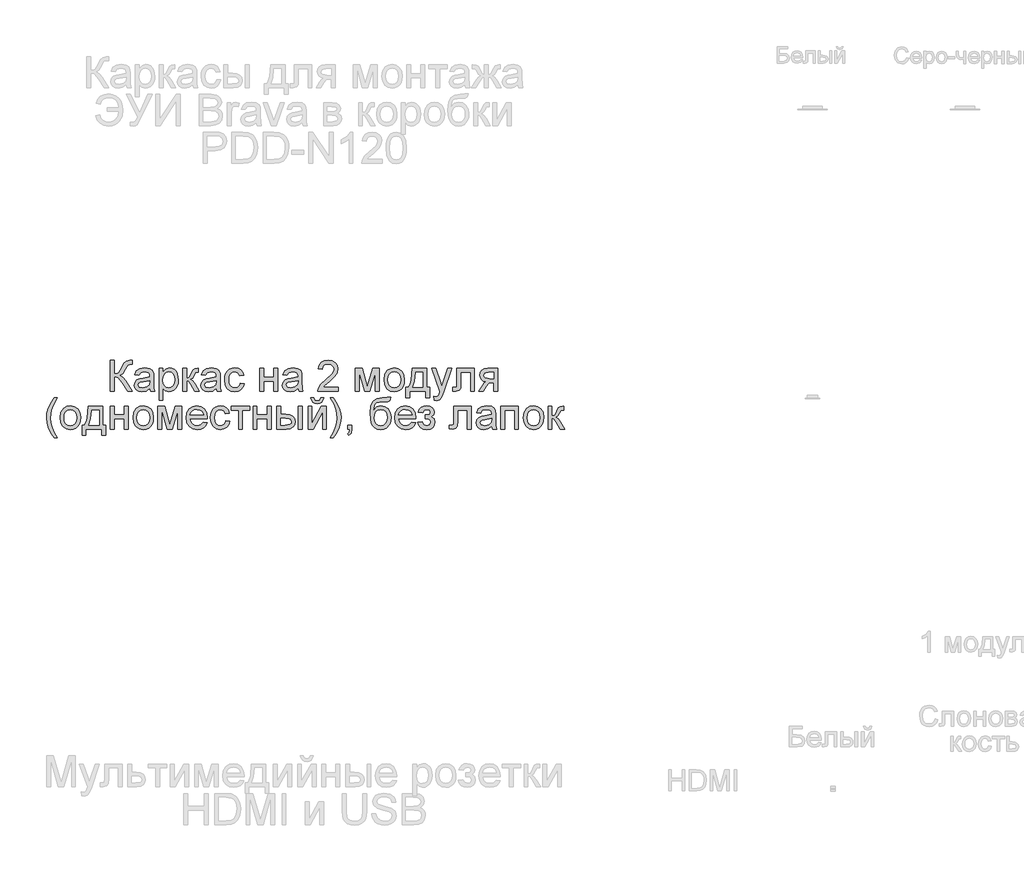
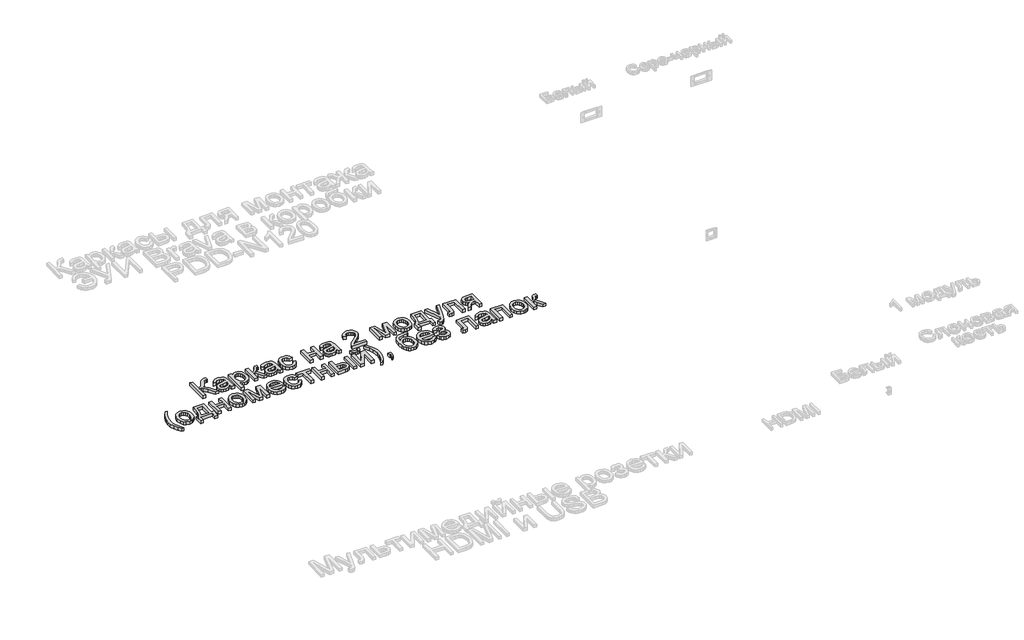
# One storey, part 14 of 47: 1 proxy.
"""IFC4 building model written with IfcOpenShell, lengths in millimetres."""

from ifc_helpers import new_model, si_unit, origin, origin_with_axes, place, context, project, spatial, polyline, outline, extrude, element, save

model = new_model("IFC4")

# Units and contexts
model_context = context("Model", 3, world=origin())
ifc_project = project(units=[si_unit("LENGTHUNIT", "METRE", prefix="MILLI")], contexts=[model_context])

# Site, building, storey
site = spatial("IfcSite", under=ifc_project)
building = spatial("IfcBuilding", under=site)
storey = spatial("IfcBuildingStorey", under=building, Name="Этаж 01", Elevation=0.0)

# Proxy
placement = place(None, origin())
element("IfcBuildingElementProxy", 1, Name="150 мм Arial", ObjectType="150 мм Arial", at=placement, inside=storey, context=model_context, shape_type="SweptSolid", body=[
    extrude(outline(polyline([(-3395.2581128, -6290.0114528), (-3376.4225547, -6290.0114528), (-3376.4225547, -6355.9359064), (-3363.670845, -6354.6897061), (-3355.3613105, -6350.9511053), (-3340.6644248, -6325.7327946), (-3330.2717584, -6304.6715503), (-3318.4995346, -6294.2420958), (-3301.6689333, -6290.0114528), (-3289.3080982, -6290.232182), (-3289.3080982, -6309.0677402), (-3293.4651648, -6308.9573756), (-3297.6222313, -6308.847011), (-3312.3375111, -6313.3719595), (-3323.5211238, -6332.7593407), (-3336.8568461, -6356.3773648), (-3349.8614746, -6364.176463), (-3335.3209388, -6372.6929312), (-3320.982738, -6390.4432375), (-3289.3080982, -6440.695918), (-3311.1602888, -6440.695918), (-3337.942098, -6398.2423358), (-3356.7960503, -6376.0774456), (-3365.501058, -6371.5662926), (-3376.4225547, -6370.062575), (-3376.4225547, -6440.695918), (-3395.2581128, -6440.695918), (-3395.2581128, -6290.0114528)])), origin_with_axes(), (0.0, 0.0, 1.0), 20.0),
    extrude(outline(polyline([(-3204.5480865, -6426.5692494), (-3222.8134276, -6439.3347547), (-3242.991755, -6443.0503628), (-3258.7325059, -6440.8154797), (-3270.3437814, -6434.1108303), (-3277.5036847, -6423.9296961), (-3279.8903192, -6411.2653584), (-3276.2850756, -6396.3661376), (-3266.8121142, -6385.550407), (-3253.6235447, -6379.3699895), (-3237.3263723, -6376.5372981), (-3204.6584511, -6370.062575), (-3204.5480865, -6365.8687202), (-3205.8448706, -6357.4626166), (-3209.7352227, -6351.9627808), (-3218.4356319, -6347.8792907), (-3230.5573436, -6346.5181273), (-3249.613631, -6350.1417649), (-3258.7003162, -6362.9992407), (-3277.5358744, -6360.6447959), (-3269.3872882, -6342.2506961), (-3252.9797512, -6331.4717537), (-3228.1293224, -6327.6825691), (-3205.3022446, -6331.0302953), (-3192.4079807, -6339.4363989), (-3186.6322334, -6352.2202982), (-3185.7125284, -6368.7014116), (-3185.7125284, -6392.1354947), (-3184.7560352, -6424.8585982), (-3181.0036389, -6440.695918), (-3199.839197, -6440.695918), (-3204.5480865, -6426.5692494)]), holes=[polyline([(-3204.5480865, -6388.8981331), (-3234.9351394, -6394.6738805), (-3251.1403412, -6397.727301), (-3258.479587, -6402.6937079), (-3261.054761, -6409.9409832), (-3255.4445606, -6420.1313145), (-3238.9818413, -6424.2148047), (-3219.9255539, -6419.7082502), (-3207.6382953, -6408.8005491), (-3204.6584511, -6394.2324221), (-3204.5480865, -6388.8981331)])]), origin_with_axes(), (0.0, 0.0, 1.0), 20.0),
    extrude(outline(polyline([(-3159.8136359, -6483.0759239), (-3159.8136359, -6330.0370139), (-3140.9780778, -6330.0370139), (-3140.9780778, -6348.5046901), (-3127.9550552, -6332.8880994), (-3110.3702958, -6327.6825691), (-3097.6323817, -6329.503585), (-3086.4947543, -6334.9666326), (-3077.4264631, -6343.7406182), (-3070.8965577, -6355.494448), (-3065.6358452, -6384.5203374), (-3067.1211687, -6400.6289702), (-3071.5771394, -6415.0361489), (-3078.8612029, -6427.0107078), (-3088.830805, -6435.8214816), (-3100.4420804, -6441.2431425), (-3112.6511642, -6443.0503628), (-3129.040307, -6438.2127146), (-3140.9780778, -6425.9806382), (-3140.9780778, -6483.0759239), (-3159.8136359, -6483.0759239)]), holes=[polyline([(-3140.9780778, -6386.2493828), (-3138.9409312, -6403.1351663), (-3132.8294916, -6414.9441784), (-3123.8117842, -6421.8971481), (-3113.0558343, -6424.2148047), (-3102.1251406, -6421.8143746), (-3092.8775069, -6414.6130846), (-3086.5729292, -6402.3718112), (-3084.4714033, -6384.8514312), (-3086.5223454, -6368.0576181), (-3092.6751718, -6356.0830592), (-3101.6790836, -6348.9093603), (-3112.2832822, -6346.5181273), (-3122.9288674, -6349.0611116), (-3132.2776686, -6356.6900644), (-3138.8029755, -6369.1658626), (-3140.9780778, -6386.2493828)])]), origin_with_axes(), (0.0, 0.0, 1.0), 20.0),
    extrude(outline(polyline([(-3044.4458422, -6330.0370139), (-3025.6102841, -6330.0370139), (-3025.6102841, -6377.1259093), (-3012.9919317, -6373.7413949), (-3002.6544476, -6354.02292), (-2994.064403, -6337.0083777), (-2986.4860339, -6331.4717537), (-2972.7088532, -6330.0370139), (-2969.1036096, -6330.0370139), (-2969.1036096, -6348.9829366), (-2974.1803812, -6348.8725721), (-2983.377431, -6350.8591348), (-2989.8521542, -6363.2567581), (-2997.4489174, -6376.6660568), (-3008.0991011, -6383.2327504), (-2996.2165127, -6390.5627992), (-2984.5546534, -6406.0046459), (-2964.3947201, -6440.695918), (-2985.8054522, -6440.695918), (-3005.5607154, -6406.7404099), (-3015.4935292, -6392.374618), (-3025.6102841, -6388.8981331), (-3025.6102841, -6440.695918), (-3044.4458422, -6440.695918), (-3044.4458422, -6330.0370139)])), origin_with_axes(), (0.0, 0.0, 1.0), 20.0),
    extrude(outline(polyline([(-2881.9891532, -6426.5692494), (-2900.2544942, -6439.3347547), (-2920.4328217, -6443.0503628), (-2936.1735725, -6440.8154797), (-2947.784848, -6434.1108303), (-2954.9447513, -6423.9296961), (-2957.3313858, -6411.2653584), (-2953.7261422, -6396.3661376), (-2944.2531809, -6385.550407), (-2931.0646113, -6379.3699895), (-2914.7674389, -6376.5372981), (-2882.0995178, -6370.062575), (-2881.9891532, -6365.8687202), (-2883.2859372, -6357.4626166), (-2887.1762893, -6351.9627808), (-2895.8766985, -6347.8792907), (-2907.9984102, -6346.5181273), (-2927.0546976, -6350.1417649), (-2936.1413829, -6362.9992407), (-2954.976941, -6360.6447959), (-2946.8283548, -6342.2506961), (-2930.4208178, -6331.4717537), (-2905.5703891, -6327.6825691), (-2882.7433113, -6331.0302953), (-2869.8490473, -6339.4363989), (-2864.0733, -6352.2202982), (-2863.153595, -6368.7014116), (-2863.153595, -6392.1354947), (-2862.1971018, -6424.8585982), (-2858.4447055, -6440.695918), (-2877.2802636, -6440.695918), (-2881.9891532, -6426.5692494)]), holes=[polyline([(-2881.9891532, -6388.8981331), (-2912.376206, -6394.6738805), (-2928.5814079, -6397.727301), (-2935.9206537, -6402.6937079), (-2938.4958276, -6409.9409832), (-2932.8856272, -6420.1313145), (-2916.4229079, -6424.2148047), (-2897.3666206, -6419.7082502), (-2885.0793619, -6408.8005491), (-2882.0995178, -6394.2324221), (-2881.9891532, -6388.8981331)])]), origin_with_axes(), (0.0, 0.0, 1.0), 20.0),
    extrude(outline(polyline([(-2766.6213595, -6400.670357), (-2747.7858013, -6403.0248017), (-2753.0373168, -6419.7772281), (-2762.9057513, -6432.4369673), (-2776.4622029, -6440.3970139), (-2792.7777693, -6443.0503628), (-2812.8135425, -6439.3485502), (-2828.480717, -6428.2431125), (-2838.5928733, -6410.2214933), (-2841.9635921, -6385.7711362), (-2840.5242538, -6369.0095128), (-2836.2062389, -6354.4827725), (-2828.9405695, -6342.7519354), (-2818.6582677, -6334.3780214), (-2806.3572135, -6329.3564322), (-2793.0352867, -6327.6825691), (-2777.1197919, -6329.9818316), (-2764.3956734, -6336.879619), (-2755.2676014, -6348.0080494), (-2750.1402461, -6362.9992407), (-2768.9758043, -6365.3536854), (-2777.7130016, -6351.2454109), (-2792.8881339, -6346.5181273), (-2805.0604295, -6348.8449809), (-2814.7219304, -6355.8255418), (-2821.0265081, -6367.8368889), (-2823.128034, -6385.2561014), (-2821.0724933, -6402.9098386), (-2814.9058714, -6414.9625725), (-2805.4191144, -6421.9017466), (-2793.4031687, -6424.2148047), (-2783.6496973, -6422.7708678), (-2775.6528625, -6418.4390573), (-2769.8357284, -6411.1090086), (-2766.6213595, -6400.670357)])), origin_with_axes(), (0.0, 0.0, 1.0), 20.0),
    extrude(outline(polyline([(-2672.4435687, -6330.0370139), (-2653.6080106, -6330.0370139), (-2653.6080106, -6372.4170197), (-2604.1646704, -6372.4170197), (-2604.1646704, -6330.0370139), (-2585.3291123, -6330.0370139), (-2585.3291123, -6440.695918), (-2604.1646704, -6440.695918), (-2604.1646704, -6391.2525779), (-2653.6080106, -6391.2525779), (-2653.6080106, -6440.695918), (-2672.4435687, -6440.695918), (-2672.4435687, -6330.0370139)])), origin_with_axes(), (0.0, 0.0, 1.0), 20.0),
    extrude(outline(polyline([(-2486.442432, -6426.5692494), (-2504.707773, -6439.3347547), (-2524.8861005, -6443.0503628), (-2540.6268513, -6440.8154797), (-2552.2381268, -6434.1108303), (-2559.3980301, -6423.9296961), (-2561.7846646, -6411.2653584), (-2558.179421, -6396.3661376), (-2548.7064596, -6385.550407), (-2535.5178901, -6379.3699895), (-2519.2207177, -6376.5372981), (-2486.5527966, -6370.062575), (-2486.442432, -6365.8687202), (-2487.739216, -6357.4626166), (-2491.6295681, -6351.9627808), (-2500.3299773, -6347.8792907), (-2512.451689, -6346.5181273), (-2531.5079764, -6350.1417649), (-2540.5946617, -6362.9992407), (-2559.4302198, -6360.6447959), (-2551.2816336, -6342.2506961), (-2534.8740966, -6331.4717537), (-2510.0236679, -6327.6825691), (-2487.1965901, -6331.0302953), (-2474.3023261, -6339.4363989), (-2468.5265788, -6352.2202982), (-2467.6068738, -6368.7014116), (-2467.6068738, -6392.1354947), (-2466.6503806, -6424.8585982), (-2462.8979843, -6440.695918), (-2481.7335424, -6440.695918), (-2486.442432, -6426.5692494)]), holes=[polyline([(-2486.442432, -6388.8981331), (-2516.8294848, -6394.6738805), (-2533.0346867, -6397.727301), (-2540.3739325, -6402.6937079), (-2542.9491064, -6409.9409832), (-2537.338906, -6420.1313145), (-2520.8761867, -6424.2148047), (-2501.8198994, -6419.7082502), (-2489.5326407, -6408.8005491), (-2486.5527966, -6394.2324221), (-2486.442432, -6388.8981331)])]), origin_with_axes(), (0.0, 0.0, 1.0), 20.0),
    extrude(outline(polyline([(-2291.0235161, -6421.8603599), (-2291.0235161, -6440.695918), (-2389.9101964, -6440.695918), (-2387.8868455, -6427.7096836), (-2376.4457154, -6407.7152972), (-2352.8644795, -6385.8815008), (-2320.3437111, -6354.5011666), (-2314.2460671, -6343.6854359), (-2312.213519, -6333.1640109), (-2314.1311039, -6323.7324362), (-2319.8838586, -6315.8919512), (-2328.7268221, -6310.608246), (-2339.9150333, -6308.847011), (-2351.6642645, -6310.5668593), (-2360.7923365, -6315.7264043), (-2366.683047, -6323.9209757), (-2368.7201935, -6334.7459034), (-2387.5557517, -6332.3914587), (-2382.9894164, -6314.1721029), (-2373.1163834, -6300.8639717), (-2358.4516873, -6292.7245825), (-2339.5103631, -6290.0114528), (-2320.4310831, -6293.0280852), (-2305.7939782, -6302.0779823), (-2296.4819652, -6315.5976456), (-2293.3779609, -6332.0235767), (-2296.7256871, -6349.8842475), (-2307.8541174, -6368.3519237), (-2334.8382618, -6394.1588457), (-2356.5065113, -6412.2770339), (-2365.0045854, -6421.8603599), (-2291.0235161, -6421.8603599)])), origin_with_axes(), (0.0, 0.0, 1.0), 20.0),
    extrude(outline(polyline([(-2208.6179492, -6330.0370139), (-2176.2075454, -6330.0370139), (-2151.228358, -6418.6229983), (-2124.2993959, -6330.0370139), (-2093.2501555, -6330.0370139), (-2093.2501555, -6440.695918), (-2112.0857137, -6440.695918), (-2112.0857137, -6351.5948988), (-2139.1618285, -6440.695918), (-2163.8834986, -6440.695918), (-2189.7823911, -6347.3274677), (-2189.7823911, -6440.695918), (-2208.6179492, -6440.695918), (-2208.6179492, -6330.0370139)])), origin_with_axes(), (0.0, 0.0, 1.0), 20.0),
    extrude(outline(polyline([(-2069.7057078, -6385.366466), (-2065.6314147, -6358.6858243), (-2053.4085354, -6339.9330396), (-2038.3069795, -6330.7451867), (-2020.2255795, -6327.6825691), (-2000.4381267, -6331.4119729), (-1984.6329964, -6342.600184), (-1974.2725198, -6360.3642859), (-1970.8190275, -6383.8213616), (-1972.3457378, -6402.8500578), (-1976.9258686, -6417.3354114), (-1984.4260628, -6428.1833317), (-1994.7129631, -6436.2997282), (-2006.9312439, -6441.3627042), (-2020.2255795, -6443.0503628), (-2040.2521556, -6439.3347547), (-2056.0388917, -6428.1879302), (-2066.2890038, -6410.0513478), (-2069.7057078, -6385.366466)]), holes=[polyline([(-2050.8701497, -6385.3296778), (-2048.6904489, -6402.3764097), (-2042.1513464, -6414.5211141), (-2032.310503, -6421.791382), (-2020.2255795, -6424.2148047), (-2008.1958382, -6421.7775864), (-1998.373389, -6414.4659318), (-1991.8342865, -6402.1602791), (-1989.6545857, -6384.7410666), (-1991.8480821, -6368.1909753), (-1998.4285713, -6356.2118179), (-2008.2648161, -6348.9415499), (-2020.2255795, -6346.5181273), (-2032.310503, -6348.9323529), (-2042.1513464, -6356.1750297), (-2048.6904489, -6368.2921429), (-2050.8701497, -6385.3296778)])]), origin_with_axes(), (0.0, 0.0, 1.0), 20.0),
    extrude(outline(polyline([(-1933.1479112, -6330.0370139), (-1862.5145681, -6330.0370139), (-1862.5145681, -6421.8603599), (-1848.3878995, -6421.8603599), (-1848.3878995, -6471.3037), (-1867.2234577, -6471.3037), (-1867.2234577, -6440.695918), (-1944.9201351, -6440.695918), (-1944.9201351, -6471.3037), (-1963.7556932, -6471.3037), (-1963.7556932, -6421.8603599), (-1951.9834694, -6421.8603599), (-1943.4256145, -6406.3955205), (-1937.4337365, -6385.9366831), (-1933.1479112, -6330.0370139)]), holes=[polyline([(-1916.6667978, -6348.8725721), (-1921.0813818, -6391.7860068), (-1930.7934664, -6421.8603599), (-1881.3501263, -6421.8603599), (-1881.3501263, -6348.8725721), (-1916.6667978, -6348.8725721)])]), origin_with_axes(), (0.0, 0.0, 1.0), 20.0),
    extrude(outline(polyline([(-1827.1978966, -6483.0759239), (-1829.5523414, -6464.9393415), (-1819.9874095, -6466.5948105), (-1811.047877, -6464.5162772), (-1805.5664353, -6458.7221358), (-1800.4160874, -6444.8529846), (-1798.9445594, -6440.2912479), (-1838.9701205, -6330.0370139), (-1819.1044927, -6330.0370139), (-1797.8777016, -6391.4733071), (-1790.4832735, -6416.0478244), (-1783.0888454, -6394.3427867), (-1761.2734431, -6330.0370139), (-1741.5549681, -6330.0370139), (-1780.072213, -6443.3446684), (-1790.0786033, -6467.9191857), (-1801.0046986, -6481.1997257), (-1815.6831902, -6485.4303687), (-1827.1978966, -6483.0759239)])), origin_with_axes(), (0.0, 0.0, 1.0), 20.0),
    extrude(outline(polyline([(-1716.5389925, -6330.0370139), (-1631.7789808, -6330.0370139), (-1631.7789808, -6440.5855534), (-1650.6145389, -6440.5855534), (-1650.6145389, -6348.8725721), (-1697.7034343, -6348.8725721), (-1697.7034343, -6401.6636384), (-1698.9726272, -6426.0174264), (-1705.943991, -6436.2997282), (-1722.4251044, -6440.695918), (-1737.7289954, -6439.7394249), (-1737.7289954, -6421.8603599), (-1729.3044977, -6421.8603599), (-1720.7880295, -6420.7015316), (-1717.385121, -6417.0227117), (-1716.5389925, -6400.5967806), (-1716.5389925, -6330.0370139)])), origin_with_axes(), (0.0, 0.0, 1.0), 20.0),
    extrude(outline(polyline([(-1518.7656319, -6330.0370139), (-1518.7656319, -6440.695918), (-1537.60119, -6440.695918), (-1537.60119, -6398.3159122), (-1547.8650977, -6398.3159122), (-1561.8446135, -6400.7071452), (-1574.9780007, -6416.7835884), (-1589.9875861, -6440.695918), (-1611.7662002, -6440.695918), (-1592.8570657, -6410.456018), (-1584.5061444, -6399.6034992), (-1576.8174107, -6394.784245), (-1589.6932805, -6390.8387107), (-1598.7431776, -6383.343115), (-1604.0958606, -6373.3735129), (-1605.8800883, -6362.0059593), (-1603.4428701, -6349.1116953), (-1596.1312154, -6338.90297), (-1584.2026417, -6332.2535029), (-1567.9146664, -6330.0370139), (-1518.7656319, -6330.0370139)]), holes=[polyline([(-1537.60119, -6348.8725721), (-1562.4332247, -6348.8725721), (-1575.2585107, -6349.9624225), (-1582.5379757, -6353.2319737), (-1587.0445302, -6363.4406991), (-1585.3844627, -6370.6189965), (-1580.4042601, -6375.599199), (-1556.8782066, -6379.480354), (-1537.60119, -6379.480354), (-1537.60119, -6348.8725721)])]), origin_with_axes(), (0.0, 0.0, 1.0), 20.0),
    extrude(outline(polyline([(-3667.1964837, -6666.0381507), (-3681.7922018, -6645.5563206), (-3693.9415047, -6621.855523), (-3702.1360762, -6596.0853893), (-3704.8676, -6569.3955505), (-3702.8258549, -6545.9890586), (-3696.7006197, -6523.5942421), (-3684.5421198, -6498.2287786), (-3667.1964837, -6472.9736796), (-3653.0698151, -6472.9736796), (-3670.6913626, -6502.8089094), (-3681.2863641, -6531.7244342), (-3686.0320418, -6569.5059151), (-3683.9719027, -6593.6527696), (-3677.7914851, -6617.790427), (-3667.4907893, -6641.9188874), (-3653.0698151, -6666.0381507), (-3667.1964837, -6666.0381507)])), origin_with_axes(), (0.0, 0.0, 1.0), 20.0),
    extrude(outline(polyline([(-3638.9431465, -6568.3286927), (-3634.8688534, -6541.648051), (-3622.6459741, -6522.8952663), (-3607.5444182, -6513.7074135), (-3589.4630181, -6510.6447959), (-3569.6755653, -6514.3741996), (-3553.8704351, -6525.5624108), (-3543.5099584, -6543.3265126), (-3540.0564662, -6566.7835884), (-3541.5831764, -6585.8122846), (-3546.1633073, -6600.2976381), (-3553.6635014, -6611.1455585), (-3563.9504017, -6619.261955), (-3576.1686825, -6624.3249309), (-3589.4630181, -6626.0125896), (-3609.4895942, -6622.2969814), (-3625.2763303, -6611.150157), (-3635.5264424, -6593.0135746), (-3638.9431465, -6568.3286927)]), holes=[polyline([(-3620.1075883, -6568.2919045), (-3617.9278875, -6585.3386365), (-3611.388785, -6597.4833409), (-3601.5479416, -6604.7536088), (-3589.4630181, -6607.1770314), (-3577.4332769, -6604.7398132), (-3567.6108276, -6597.4281586), (-3561.0717251, -6585.1225058), (-3558.8920243, -6567.7032933), (-3561.0855207, -6551.1532021), (-3567.6660099, -6539.1740446), (-3577.5022547, -6531.9037767), (-3589.4630181, -6529.480354), (-3601.5479416, -6531.8945796), (-3611.388785, -6539.1372564), (-3617.9278875, -6551.2543696), (-3620.1075883, -6568.2919045)])]), origin_with_axes(), (0.0, 0.0, 1.0), 20.0),
    extrude(outline(polyline([(-3502.3853498, -6512.9992407), (-3431.7520068, -6512.9992407), (-3431.7520068, -6604.8225867), (-3417.6253382, -6604.8225867), (-3417.6253382, -6654.2659268), (-3436.4608963, -6654.2659268), (-3436.4608963, -6623.6581448), (-3514.1575737, -6623.6581448), (-3514.1575737, -6654.2659268), (-3532.9931318, -6654.2659268), (-3532.9931318, -6604.8225867), (-3521.220908, -6604.8225867), (-3512.6630531, -6589.3577473), (-3506.6711751, -6568.8989098), (-3502.3853498, -6512.9992407)]), holes=[polyline([(-3485.9042365, -6531.8347988), (-3490.3188204, -6574.7482336), (-3500.0309051, -6604.8225867), (-3450.5875649, -6604.8225867), (-3450.5875649, -6531.8347988), (-3485.9042365, -6531.8347988)])]), origin_with_axes(), (0.0, 0.0, 1.0), 20.0),
    extrude(outline(polyline([(-3396.4353352, -6512.9992407), (-3377.5997771, -6512.9992407), (-3377.5997771, -6555.3792465), (-3328.1564369, -6555.3792465), (-3328.1564369, -6512.9992407), (-3309.3208788, -6512.9992407), (-3309.3208788, -6623.6581448), (-3328.1564369, -6623.6581448), (-3328.1564369, -6574.2148047), (-3377.5997771, -6574.2148047), (-3377.5997771, -6623.6581448), (-3396.4353352, -6623.6581448), (-3396.4353352, -6512.9992407)])), origin_with_axes(), (0.0, 0.0, 1.0), 20.0),
    extrude(outline(polyline([(-3285.7764311, -6568.3286927), (-3281.702138, -6541.648051), (-3269.4792587, -6522.8952663), (-3254.3777028, -6513.7074135), (-3236.2963027, -6510.6447959), (-3216.5088499, -6514.3741996), (-3200.7037197, -6525.5624108), (-3190.343243, -6543.3265126), (-3186.8897508, -6566.7835884), (-3188.4164611, -6585.8122846), (-3192.9965919, -6600.2976381), (-3200.4967861, -6611.1455585), (-3210.7836864, -6619.261955), (-3223.0019671, -6624.3249309), (-3236.2963027, -6626.0125896), (-3256.3228788, -6622.2969814), (-3272.109615, -6611.150157), (-3282.3597271, -6593.0135746), (-3285.7764311, -6568.3286927)]), holes=[polyline([(-3266.9408729, -6568.2919045), (-3264.7611721, -6585.3386365), (-3258.2220696, -6597.4833409), (-3248.3812263, -6604.7536088), (-3236.2963027, -6607.1770314), (-3224.2665615, -6604.7398132), (-3214.4441122, -6597.4281586), (-3207.9050098, -6585.1225058), (-3205.7253089, -6567.7032933), (-3207.9188053, -6551.1532021), (-3214.4992945, -6539.1740446), (-3224.3355394, -6531.9037767), (-3236.2963027, -6529.480354), (-3248.3812263, -6531.8945796), (-3258.2220696, -6539.1372564), (-3264.7611721, -6551.2543696), (-3266.9408729, -6568.2919045)])]), origin_with_axes(), (0.0, 0.0, 1.0), 20.0),
    extrude(outline(polyline([(-3165.6997479, -6512.9992407), (-3133.2893441, -6512.9992407), (-3108.3101566, -6601.5852251), (-3081.3811946, -6512.9992407), (-3050.3319542, -6512.9992407), (-3050.3319542, -6623.6581448), (-3069.1675123, -6623.6581448), (-3069.1675123, -6534.5571256), (-3096.2436272, -6623.6581448), (-3120.9652972, -6623.6581448), (-3146.8641897, -6530.2896944), (-3146.8641897, -6623.6581448), (-3165.6997479, -6623.6581448), (-3165.6997479, -6512.9992407)])), origin_with_axes(), (0.0, 0.0, 1.0), 20.0),
    extrude(outline(polyline([(-2944.6026688, -6590.695918), (-2926.1349926, -6593.0503628), (-2932.7890582, -6606.9654993), (-2943.4070523, -6617.3673627), (-2957.7498516, -6623.8512829), (-2975.5783328, -6626.0125896), (-2997.6788436, -6622.2831859), (-3014.6841888, -6611.0949747), (-3025.5275106, -6593.174523), (-3029.1419512, -6569.2483977), (-3025.4907224, -6544.5175306), (-3014.537036, -6526.0222633), (-2997.7616171, -6514.4891627), (-2976.6451905, -6510.6447959), (-2956.1863531, -6514.4799657), (-2939.8385969, -6525.9854751), (-2929.1194353, -6544.4439542), (-2925.5463814, -6569.1380331), (-2925.656746, -6574.2148047), (-3010.3063931, -6574.2148047), (-3007.0460389, -6588.3138821), (-2999.4722683, -6598.6789573), (-2988.5415746, -6605.0525129), (-2975.2104508, -6607.1770314), (-2956.7427746, -6603.2406941), (-2944.6026688, -6590.695918)]), holes=[polyline([(-3010.3063931, -6555.3792465), (-2944.3819396, -6555.3792465), (-2946.9295224, -6545.4280385), (-2951.9235205, -6538.3095219), (-2962.904798, -6531.687646), (-2976.7187669, -6529.480354), (-2989.4152943, -6531.2415891), (-2999.9137267, -6536.5252943), (-3007.2115858, -6544.7612524), (-3010.3063931, -6555.3792465)])]), origin_with_axes(), (0.0, 0.0, 1.0), 20.0),
    extrude(outline(polyline([(-2836.0774802, -6583.6325837), (-2817.241922, -6585.9870285), (-2822.4934375, -6602.7394549), (-2832.361872, -6615.399194), (-2845.9183236, -6623.3592407), (-2862.23389, -6626.0125896), (-2882.2696632, -6622.310777), (-2897.9368377, -6611.2053393), (-2908.048994, -6593.18372), (-2911.4197128, -6568.7333629), (-2909.9803745, -6551.9717395), (-2905.6623596, -6537.4449992), (-2898.3966902, -6525.7141621), (-2888.1143884, -6517.3402482), (-2875.8133342, -6512.318659), (-2862.4914074, -6510.6447959), (-2846.5759126, -6512.9440584), (-2833.8517941, -6519.8418458), (-2824.7237221, -6530.9702761), (-2819.5963668, -6545.9614674), (-2838.431925, -6548.3159122), (-2847.1691223, -6534.2076377), (-2862.3442546, -6529.480354), (-2874.5165502, -6531.8072077), (-2884.1780511, -6538.7877685), (-2890.4826287, -6550.7991157), (-2892.5841546, -6568.2183281), (-2890.528614, -6585.8720654), (-2884.361992, -6597.9247993), (-2874.8752351, -6604.8639734), (-2862.8592894, -6607.1770314), (-2853.105818, -6605.7330946), (-2845.1089832, -6601.4012841), (-2839.2918491, -6594.0712354), (-2836.0774802, -6583.6325837)])), origin_with_axes(), (0.0, 0.0, 1.0), 20.0),
    extrude(outline(polyline([(-2810.1785877, -6512.9992407), (-2720.7096865, -6512.9992407), (-2720.7096865, -6531.8347988), (-2756.026358, -6531.8347988), (-2756.026358, -6623.6581448), (-2774.8619162, -6623.6581448), (-2774.8619162, -6531.8347988), (-2810.1785877, -6531.8347988), (-2810.1785877, -6512.9992407)])), origin_with_axes(), (0.0, 0.0, 1.0), 20.0),
    extrude(outline(polyline([(-2704.2285731, -6512.9992407), (-2685.393015, -6512.9992407), (-2685.393015, -6555.3792465), (-2635.9496748, -6555.3792465), (-2635.9496748, -6512.9992407), (-2617.1141167, -6512.9992407), (-2617.1141167, -6623.6581448), (-2635.9496748, -6623.6581448), (-2635.9496748, -6574.2148047), (-2685.393015, -6574.2148047), (-2685.393015, -6623.6581448), (-2704.2285731, -6623.6581448), (-2704.2285731, -6512.9992407)])), origin_with_axes(), (0.0, 0.0, 1.0), 20.0),
    extrude(outline(polyline([(-2485.2652096, -6512.9992407), (-2466.4296514, -6512.9992407), (-2466.4296514, -6623.6581448), (-2485.2652096, -6623.6581448), (-2485.2652096, -6512.9992407)])), origin_with_axes(), (0.0, 0.0, 1.0), 20.0),
    extrude(outline(polyline([(-2588.8607794, -6512.9992407), (-2570.0252213, -6512.9992407), (-2570.0252213, -6553.0248017), (-2546.738291, -6553.0248017), (-2526.6105473, -6555.383845), (-2511.6975309, -6562.4609749), (-2502.4682914, -6573.6859743), (-2499.3918782, -6588.4886261), (-2501.9716507, -6601.9669027), (-2509.7109682, -6613.3390548), (-2523.1156684, -6621.0783723), (-2542.691589, -6623.6581448), (-2588.8607794, -6623.6581448), (-2588.8607794, -6512.9992407)]), holes=[polyline([(-2570.0252213, -6604.8225867), (-2550.6746283, -6604.8225867), (-2525.6954409, -6600.8678552), (-2520.0944375, -6595.8048793), (-2518.2274363, -6588.5254143), (-2523.7640604, -6576.9371314), (-2532.643812, -6573.1295528), (-2548.209819, -6571.8603599), (-2570.0252213, -6571.8603599), (-2570.0252213, -6604.8225867)])]), origin_with_axes(), (0.0, 0.0, 1.0), 20.0),
    extrude(outline(polyline([(-2438.1763142, -6512.9992407), (-2419.340756, -6512.9992407), (-2419.340756, -6597.3913704), (-2373.0612011, -6512.9992407), (-2348.707413, -6512.9992407), (-2348.707413, -6623.6581448), (-2367.5429711, -6623.6581448), (-2367.5429711, -6539.7810499), (-2413.5282205, -6623.6581448), (-2438.1763142, -6623.6581448), (-2438.1763142, -6512.9992407)])), origin_with_axes(), (0.0, 0.0, 1.0), 20.0),
    extrude(outline(polyline([(-2376.9607502, -6472.9736796), (-2362.8340816, -6472.9736796), (-2365.8737066, -6485.0356105), (-2371.9759492, -6493.9245592), (-2380.8648979, -6499.4014024), (-2392.2646412, -6501.2270168), (-2404.6346733, -6499.415198), (-2414.2271963, -6493.9797415), (-2420.7846929, -6485.1045884), (-2424.0496456, -6472.9736796), (-2409.922977, -6472.9736796), (-2404.6254762, -6483.5870752), (-2393.9568984, -6487.1003482), (-2382.2582509, -6483.6974397), (-2376.9607502, -6472.9736796)])), origin_with_axes(), (0.0, 0.0, 1.0), 20.0),
    extrude(outline(polyline([(-2315.7451862, -6666.0381507), (-2329.8718548, -6666.0381507), (-2315.4508806, -6641.9188874), (-2305.1501847, -6617.790427), (-2298.9697672, -6593.6527696), (-2296.909628, -6569.5059151), (-2301.6553058, -6532.055528), (-2312.1399427, -6503.103215), (-2329.8718548, -6472.9736796), (-2315.7451862, -6472.9736796), (-2298.3995501, -6498.2287786), (-2286.2410502, -6523.5942421), (-2280.115815, -6545.9890586), (-2278.0740699, -6569.3955505), (-2280.8193893, -6596.0853893), (-2289.0553475, -6621.855523), (-2301.2184459, -6645.5563206), (-2315.7451862, -6666.0381507)])), origin_with_axes(), (0.0, 0.0, 1.0), 20.0),
    extrude(outline(polyline([(-2245.1118431, -6623.6581448), (-2245.1118431, -6604.8225867), (-2226.276285, -6604.8225867), (-2226.276285, -6623.6581448), (-2229.6607993, -6642.9167673), (-2240.4029536, -6654.2659268), (-2245.1118431, -6647.2025925), (-2238.1956616, -6639.0724004), (-2235.7308523, -6623.6581448), (-2245.1118431, -6623.6581448)])), origin_with_axes(), (0.0, 0.0, 1.0), 20.0),
    extrude(outline(polyline([(-2054.4018168, -6470.6192348), (-2037.9207034, -6470.6192348), (-2042.7767458, -6485.3161205), (-2052.3784659, -6490.6320154), (-2075.444667, -6491.8092377), (-2106.5123014, -6496.1502453), (-2113.6400151, -6501.7972339), (-2118.4316781, -6510.0561847), (-2122.4599859, -6534.6674902), (-2106.1444195, -6516.6412724), (-2096.2254012, -6512.143915), (-2085.1199634, -6510.6447959), (-2065.5210501, -6514.4569731), (-2049.6193509, -6525.8935046), (-2039.0795317, -6543.8323504), (-2035.5662587, -6567.1514704), (-2037.3090996, -6585.1317029), (-2042.5376225, -6599.5618741), (-2059.0739182, -6619.1148022), (-2070.3678954, -6624.2881427), (-2085.1199634, -6626.0125896), (-2102.1207101, -6623.791502), (-2114.8632227, -6617.1282394), (-2124.2396151, -6607.0022875), (-2131.142001, -6594.3931321), (-2135.3910381, -6575.4058226), (-2136.8073837, -6546.1454084), (-2133.2343299, -6510.0056009), (-2122.5151682, -6487.9648709), (-2104.3831844, -6476.7214774), (-2078.5716639, -6472.9736796), (-2057.6023902, -6472.5506153), (-2054.4018168, -6470.6192348)]), holes=[polyline([(-2054.4018168, -6566.5628592), (-2056.4435619, -6551.7418133), (-2062.5687971, -6539.8730204), (-2072.4096405, -6532.0785206), (-2085.59821, -6529.480354), (-2099.3477996, -6532.2256734), (-2109.5473279, -6540.4616316), (-2115.8657012, -6553.2869177), (-2117.9718256, -6569.8002207), (-2115.644972, -6585.807686), (-2108.6644111, -6597.5569173), (-2098.2717448, -6604.7720029), (-2085.7085746, -6607.1770314), (-2073.0810251, -6604.3949238), (-2063.0838319, -6596.0486011), (-2056.5723206, -6583.1129504), (-2054.4018168, -6566.5628592)])]), origin_with_axes(), (0.0, 0.0, 1.0), 20.0),
    extrude(outline(polyline([(-1934.5458628, -6590.695918), (-1916.0781866, -6593.0503628), (-1922.7322522, -6606.9654993), (-1933.3502463, -6617.3673627), (-1947.6930456, -6623.8512829), (-1965.5215268, -6626.0125896), (-1987.6220377, -6622.2831859), (-2004.6273829, -6611.0949747), (-2015.4707047, -6593.174523), (-2019.0851453, -6569.2483977), (-2015.4339165, -6544.5175306), (-2004.4802301, -6526.0222633), (-1987.7048111, -6514.4891627), (-1966.5883846, -6510.6447959), (-1946.1295471, -6514.4799657), (-1929.781791, -6525.9854751), (-1919.0626293, -6544.4439542), (-1915.4895755, -6569.1380331), (-1915.59994, -6574.2148047), (-2000.2495871, -6574.2148047), (-1996.989233, -6588.3138821), (-1989.4154624, -6598.6789573), (-1978.4847686, -6605.0525129), (-1965.1536448, -6607.1770314), (-1946.6859686, -6603.2406941), (-1934.5458628, -6590.695918)]), holes=[polyline([(-2000.2495871, -6555.3792465), (-1934.3251336, -6555.3792465), (-1936.8727164, -6545.4280385), (-1941.8667145, -6538.3095219), (-1952.8479921, -6531.687646), (-1966.661961, -6529.480354), (-1979.3584883, -6531.2415891), (-1989.8569208, -6536.5252943), (-1997.1547799, -6544.7612524), (-2000.2495871, -6555.3792465)])]), origin_with_axes(), (0.0, 0.0, 1.0), 20.0),
    extrude(outline(polyline([(-1870.7551248, -6574.2148047), (-1870.7551248, -6555.3792465), (-1855.8926922, -6554.6434825), (-1848.3878995, -6550.7255393), (-1844.8562324, -6542.5401649), (-1849.583516, -6533.0304153), (-1861.7788042, -6529.480354), (-1874.3787625, -6533.0120212), (-1882.5273487, -6543.6070227), (-1903.7173516, -6541.2525779), (-1898.0979541, -6527.8616733), (-1889.5538948, -6518.2967414), (-1878.0851736, -6512.5577823), (-1863.6917905, -6510.6447959), (-1847.9464411, -6512.976248), (-1836.0270645, -6519.9706045), (-1828.5222718, -6530.2023225), (-1826.0206742, -6542.2458593), (-1829.5799325, -6553.9445067), (-1840.2577074, -6562.9944038), (-1827.8049019, -6574.7298395), (-1823.6662295, -6591.615623), (-1826.2919872, -6605.4801757), (-1834.1692604, -6616.4660518), (-1846.7646202, -6623.6259551), (-1863.5446377, -6626.0125896), (-1879.9567732, -6623.8052976), (-1892.5153449, -6617.1834217), (-1901.2203526, -6606.1469618), (-1906.0717964, -6590.695918), (-1884.8817935, -6588.3414733), (-1876.3837194, -6602.2474127), (-1861.742016, -6607.1770314), (-1847.9832293, -6602.4497478), (-1842.5017876, -6590.3648243), (-1845.9046961, -6580.4687986), (-1853.1519714, -6575.1712979), (-1867.0763049, -6574.1044401), (-1870.7551248, -6574.2148047)])), origin_with_axes(), (0.0, 0.0, 1.0), 20.0),
    extrude(outline(polyline([(-1731.8428835, -6512.9992407), (-1647.0828718, -6512.9992407), (-1647.0828718, -6623.5477802), (-1665.9184299, -6623.5477802), (-1665.9184299, -6531.8347988), (-1713.0073253, -6531.8347988), (-1713.0073253, -6584.6258651), (-1714.2765182, -6608.9796532), (-1721.247882, -6619.261955), (-1737.7289954, -6623.6581448), (-1753.0328864, -6622.7016516), (-1753.0328864, -6604.8225867), (-1744.6083887, -6604.8225867), (-1736.0919205, -6603.6637584), (-1732.689012, -6599.9849384), (-1731.8428835, -6583.5590073), (-1731.8428835, -6512.9992407)])), origin_with_axes(), (0.0, 0.0, 1.0), 20.0),
    extrude(outline(polyline([(-1548.1961915, -6609.5314762), (-1566.4615325, -6622.2969814), (-1586.63986, -6626.0125896), (-1602.3806108, -6623.7777065), (-1613.9918863, -6617.0730571), (-1621.1517896, -6606.8919229), (-1623.5384241, -6594.2275852), (-1619.9331805, -6579.3283644), (-1610.4602191, -6568.5126337), (-1597.2716496, -6562.3322162), (-1580.9744772, -6559.4995249), (-1548.3065561, -6553.0248017), (-1548.1961915, -6548.830947), (-1549.4929755, -6540.4248434), (-1553.3833276, -6534.9250076), (-1562.0837368, -6530.8415174), (-1574.2054485, -6529.480354), (-1593.2617359, -6533.1039917), (-1602.3484212, -6545.9614674), (-1621.1839793, -6543.6070227), (-1613.0353931, -6525.2129229), (-1596.6278561, -6514.4339804), (-1571.7774274, -6510.6447959), (-1548.9503496, -6513.9925221), (-1536.0560856, -6522.3986256), (-1530.2803383, -6535.182525), (-1529.3606333, -6551.6636384), (-1529.3606333, -6575.0977215), (-1528.4041401, -6607.8208249), (-1524.6517438, -6623.6581448), (-1543.4873019, -6623.6581448), (-1548.1961915, -6609.5314762)]), holes=[polyline([(-1548.1961915, -6571.8603599), (-1578.5832443, -6577.6361072), (-1594.7884462, -6580.6895278), (-1602.127692, -6585.6559347), (-1604.7028659, -6592.90321), (-1599.0926655, -6603.0935413), (-1582.6299462, -6607.1770314), (-1563.5736589, -6602.670477), (-1551.2864002, -6591.7627758), (-1548.3065561, -6577.1946488), (-1548.1961915, -6571.8603599)])]), origin_with_axes(), (0.0, 0.0, 1.0), 20.0),
    extrude(outline(polyline([(-1503.4617409, -6512.9992407), (-1418.7017292, -6512.9992407), (-1418.7017292, -6623.6581448), (-1437.5372873, -6623.6581448), (-1437.5372873, -6531.8347988), (-1484.6261827, -6531.8347988), (-1484.6261827, -6623.6581448), (-1503.4617409, -6623.6581448), (-1503.4617409, -6512.9992407)])), origin_with_axes(), (0.0, 0.0, 1.0), 20.0),
    extrude(outline(polyline([(-1395.1572815, -6568.3286927), (-1391.0829884, -6541.648051), (-1378.8601091, -6522.8952663), (-1363.7585532, -6513.7074135), (-1345.6771531, -6510.6447959), (-1325.8897003, -6514.3741996), (-1310.0845701, -6525.5624108), (-1299.7240934, -6543.3265126), (-1296.2706012, -6566.7835884), (-1297.7973114, -6585.8122846), (-1302.3774423, -6600.2976381), (-1309.8776365, -6611.1455585), (-1320.1645368, -6619.261955), (-1332.3828175, -6624.3249309), (-1345.6771531, -6626.0125896), (-1365.7037292, -6622.2969814), (-1381.4904654, -6611.150157), (-1391.7405774, -6593.0135746), (-1395.1572815, -6568.3286927)]), holes=[polyline([(-1376.3217233, -6568.2919045), (-1374.1420225, -6585.3386365), (-1367.60292, -6597.4833409), (-1357.7620767, -6604.7536088), (-1345.6771531, -6607.1770314), (-1333.6474119, -6604.7398132), (-1323.8249626, -6597.4281586), (-1317.2858601, -6585.1225058), (-1315.1061593, -6567.7032933), (-1317.2996557, -6551.1532021), (-1323.8801449, -6539.1740446), (-1333.7163898, -6531.9037767), (-1345.6771531, -6529.480354), (-1357.7620767, -6531.8945796), (-1367.60292, -6539.1372564), (-1374.1420225, -6551.2543696), (-1376.3217233, -6568.2919045)])]), origin_with_axes(), (0.0, 0.0, 1.0), 20.0),
    extrude(outline(polyline([(-1275.0805982, -6512.9992407), (-1256.2450401, -6512.9992407), (-1256.2450401, -6560.088136), (-1243.6266877, -6556.7036217), (-1233.2892036, -6536.9851468), (-1224.699159, -6519.9706045), (-1217.1207899, -6514.4339804), (-1203.3436092, -6512.9992407), (-1199.7383656, -6512.9992407), (-1199.7383656, -6531.9451634), (-1204.8151372, -6531.8347988), (-1214.012187, -6533.8213616), (-1220.4869102, -6546.2189848), (-1228.0836734, -6559.6282836), (-1238.7338571, -6566.1949772), (-1226.8512687, -6573.5250259), (-1215.1894094, -6588.9668727), (-1195.0294761, -6623.6581448), (-1216.4402082, -6623.6581448), (-1236.1954714, -6589.7026367), (-1246.1282852, -6575.3368447), (-1256.2450401, -6571.8603599), (-1256.2450401, -6623.6581448), (-1275.0805982, -6623.6581448), (-1275.0805982, -6512.9992407)])), origin_with_axes(), (0.0, 0.0, 1.0), 20.0),
])

save(model, "model.ifc")
